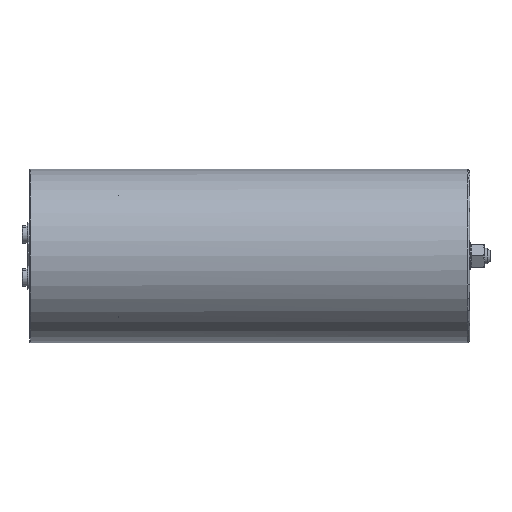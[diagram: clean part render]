
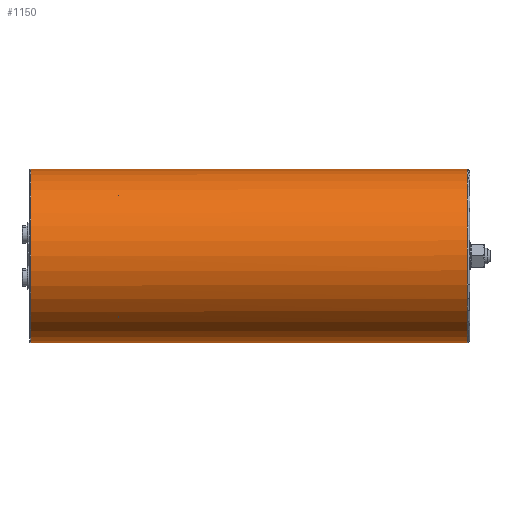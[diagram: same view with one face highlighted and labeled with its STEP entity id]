
A CAD part, left-side view. The second image highlights one B-rep face of the part: STEP entity #1150.
In plain terms, the highlighted cylindrical face has radius 68 mm (diameter 136 mm), a partial arc.
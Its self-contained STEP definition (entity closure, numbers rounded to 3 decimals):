
#7 = LINE ( 'NONE', #4780, #2791 ) ;
#33 = CARTESIAN_POINT ( 'NONE',  ( 0., -55., 0. ) ) ;
#164 = CIRCLE ( 'NONE', #3547, 68. ) ;
#481 = DIRECTION ( 'NONE',  ( 0., 1., 0. ) ) ;
#490 = EDGE_CURVE ( 'NONE', #3823, #4583, #2169, .T. ) ;
#838 = VERTEX_POINT ( 'NONE', #2209 ) ;
#1059 = DIRECTION ( 'NONE',  ( 0., -1., 0. ) ) ;
#1150 = ADVANCED_FACE ( 'NONE', ( #8696 ), #8024, .T. ) ;
#1366 = DIRECTION ( 'NONE',  ( -0.012, 0., -1. ) ) ;
#1392 = LINE ( 'NONE', #4601, #9064 ) ;
#1820 = DIRECTION ( 'NONE',  ( 0., 0., 1. ) ) ;
#2135 = DIRECTION ( 'NONE',  ( 0., 1., 0. ) ) ;
#2169 = CIRCLE ( 'NONE', #3340, 68. ) ;
#2197 = VERTEX_POINT ( 'NONE', #8061 ) ;
#2209 = CARTESIAN_POINT ( 'NONE',  ( 0., -1., 68. ) ) ;
#2791 = VECTOR ( 'NONE', #481, 1000. ) ;
#2891 = EDGE_CURVE ( 'NONE', #3823, #2197, #1392, .T. ) ;
#2892 = CIRCLE ( 'NONE', #5757, 68. ) ;
#3207 = CARTESIAN_POINT ( 'NONE',  ( 0., -1., 0. ) ) ;
#3340 = AXIS2_PLACEMENT_3D ( 'NONE', #4666, #7505, #6035 ) ;
#3428 = EDGE_CURVE ( 'NONE', #838, #2197, #164, .T. ) ;
#3547 = AXIS2_PLACEMENT_3D ( 'NONE', #3207, #1059, #1820 ) ;
#3644 = ORIENTED_EDGE ( 'NONE', *, *, #2891, .F. ) ;
#3823 = VERTEX_POINT ( 'NONE', #5899 ) ;
#3874 = DIRECTION ( 'NONE',  ( 0., 1., 0. ) ) ;
#3949 = AXIS2_PLACEMENT_3D ( 'NONE', #33, #2135, #8539 ) ;
#4583 = VERTEX_POINT ( 'NONE', #7833 ) ;
#4601 = CARTESIAN_POINT ( 'NONE',  ( 0., -55., -68. ) ) ;
#4666 = CARTESIAN_POINT ( 'NONE',  ( 0., -343., 0. ) ) ;
#4780 = CARTESIAN_POINT ( 'NONE',  ( 0., -55., 68. ) ) ;
#5630 = DIRECTION ( 'NONE',  ( 0., 1., 0. ) ) ;
#5754 = ORIENTED_EDGE ( 'NONE', *, *, #8293, .T. ) ;
#5757 = AXIS2_PLACEMENT_3D ( 'NONE', #7822, #5630, #1366 ) ;
#5899 = CARTESIAN_POINT ( 'NONE',  ( 0., -343., -68. ) ) ;
#6035 = DIRECTION ( 'NONE',  ( -0.012, 0., -1. ) ) ;
#6201 = EDGE_CURVE ( 'NONE', #7037, #838, #7, .T. ) ;
#6861 = ORIENTED_EDGE ( 'NONE', *, *, #6201, .T. ) ;
#6879 = EDGE_LOOP ( 'NONE', ( #5754, #6861, #8646, #3644, #9115 ) ) ;
#7037 = VERTEX_POINT ( 'NONE', #8204 ) ;
#7505 = DIRECTION ( 'NONE',  ( 0., 1., 0. ) ) ;
#7822 = CARTESIAN_POINT ( 'NONE',  ( 0., -343., 0. ) ) ;
#7833 = CARTESIAN_POINT ( 'NONE',  ( -0.849, -343., -67.995 ) ) ;
#8024 = CYLINDRICAL_SURFACE ( 'NONE', #3949, 68. ) ;
#8061 = CARTESIAN_POINT ( 'NONE',  ( 0., -1., -68. ) ) ;
#8204 = CARTESIAN_POINT ( 'NONE',  ( 0., -343., 68. ) ) ;
#8293 = EDGE_CURVE ( 'NONE', #4583, #7037, #2892, .T. ) ;
#8539 = DIRECTION ( 'NONE',  ( 0., 0., -1. ) ) ;
#8646 = ORIENTED_EDGE ( 'NONE', *, *, #3428, .T. ) ;
#8696 = FACE_OUTER_BOUND ( 'NONE', #6879, .T. ) ;
#9064 = VECTOR ( 'NONE', #3874, 1000. ) ;
#9115 = ORIENTED_EDGE ( 'NONE', *, *, #490, .T. ) ;
